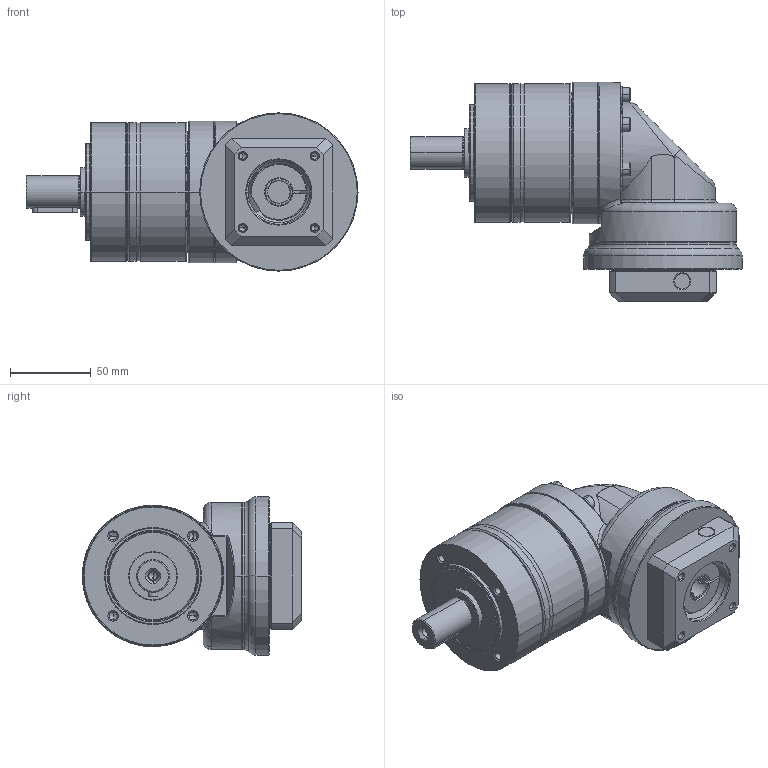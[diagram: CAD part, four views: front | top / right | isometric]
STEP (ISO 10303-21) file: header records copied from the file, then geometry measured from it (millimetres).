
FILE_DESCRIPTION((''),'2;1');
FILE_NAME('PG2R-080_1ST_14-P0411300101_ASM','2016-04-20T',('d01943'),(''),'PRO/ENGINEER BY PARAMETRIC TECHNOLOGY CORPORATION, 2008410','PRO/ENGINEER BY PARAMETRIC TECHNOLOGY CORPORATION, 2008410','');
FILE_SCHEMA(('CONFIG_CONTROL_DESIGN'));
Length unit declared in the file: millimetre
Products named in the file (12): P1325310001; P0250300001; P0350301103; P1349300001; P1017300001; P0713300001; P0503300005; P1350300001; P0411300101; P1702300001; 2111BA05025; PG2R-080_1ST_14-P0411300101_ASM
Assembly tree (16 placements, depth 2):
  PG2R-080_1ST_14-P0411300101_ASM
    P1325310001
    P0250300001
    P0350301103
    P1349300001
    P1017300001
    P0713300001
    P0503300005
    P1350300001
    P0411300101
    P1702300001
    2111BA05025  x6
Bounding box: 205.5 x 135.75 x 98 mm (x, y, z)
Volume: 675666.6 mm3; surface area: 176730.3 mm2
Topology: 16 solids, 17 shells, 800 faces, 1767 edges, 1022 vertices
Faces by surface type: cylinder 252, cone 230, plane 190, torus 96, bspline 32
Entity records: 23192 total; most frequent: CARTESIAN_POINT 8843, DIRECTION 3191, ORIENTED_EDGE 2766, EDGE_CURVE 1383, AXIS2_PLACEMENT_3D 1343, VERTEX_POINT 822, EDGE_LOOP 725, CIRCLE 712
